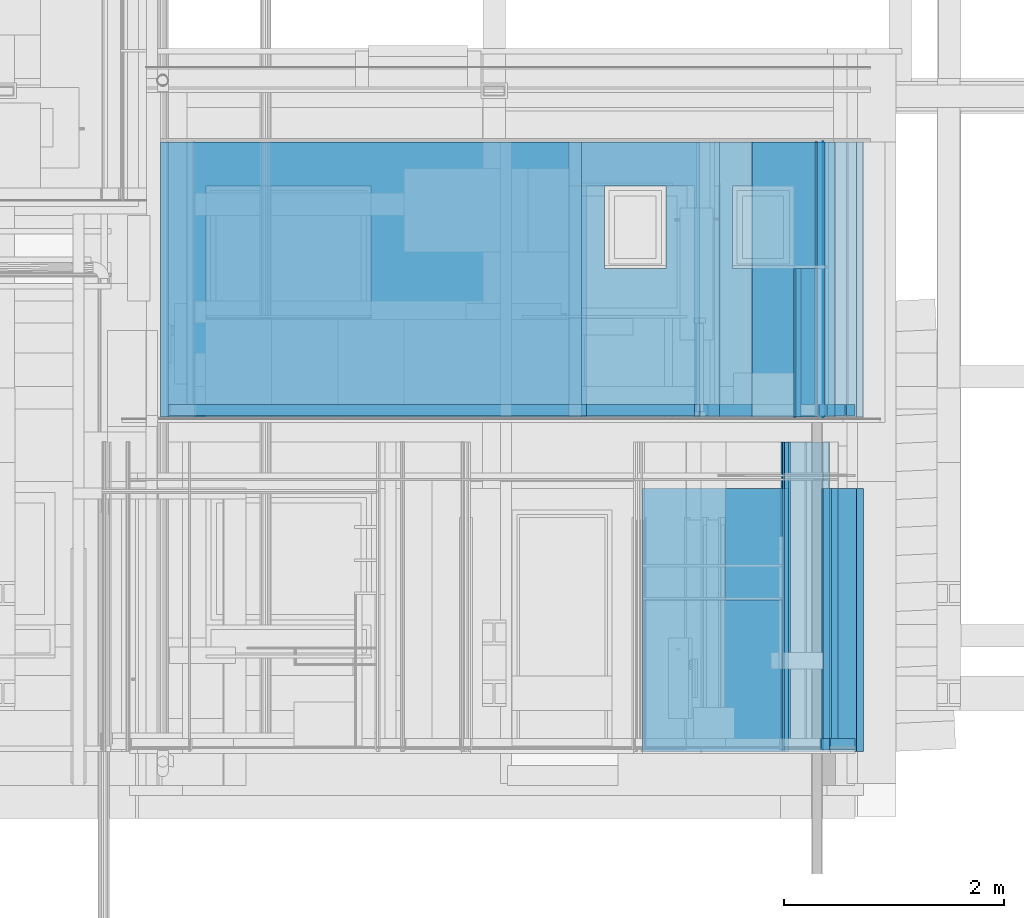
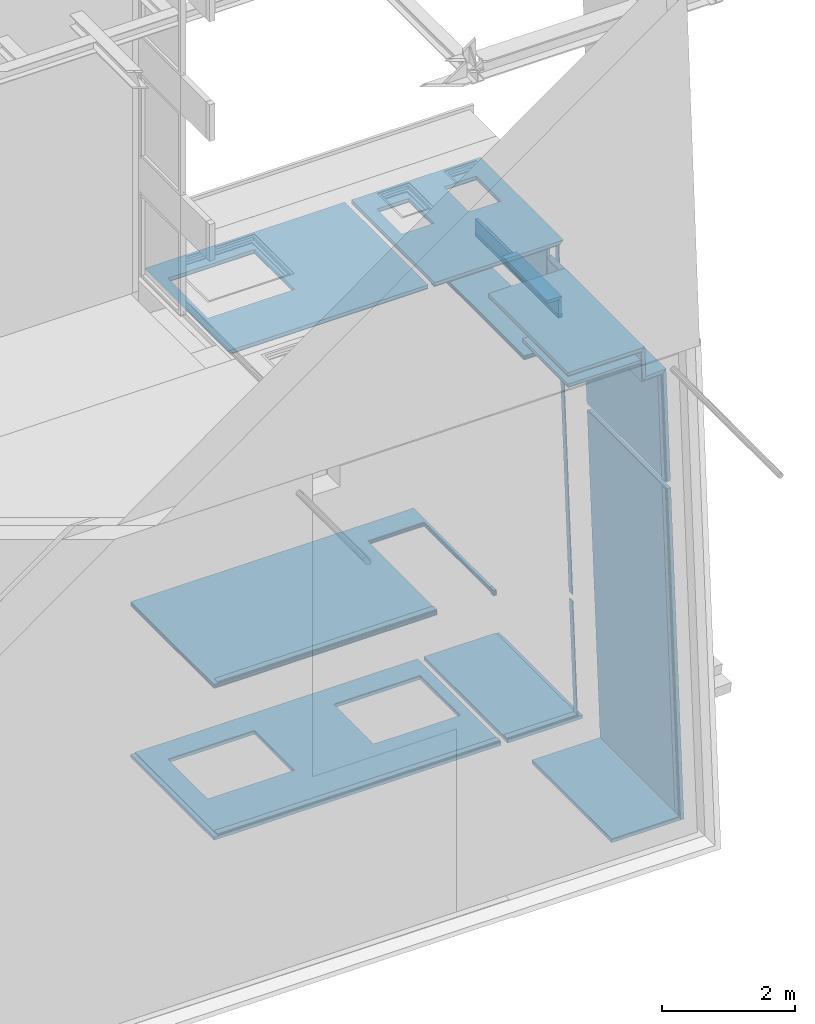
# One storey, part 129 of 583: 48 building element parts, 6 openings, 21 elements without a shape of their own.
"""IFC2X3 building model written with IfcOpenShell, lengths in metres."""

from ifc_helpers import new_model, entity, si_unit, converted_unit, derived_unit, money_unit, direction, frame, frame_2d, origin_with_axes, place, context, subcontext, project, spatial, polyline, rectangle, outline, extrude, material, type_object, element, aggregate, save


model = new_model("IFC2X3")

# Units and contexts
model_context = context("Model", 3, precision=1e-05, world=origin_with_axes(), true_north=direction((0.0, 1.0)))
body_context = subcontext(model_context, "Body", "Model", "MODEL_VIEW", scale=1.0)
ifc_project = project(units=[si_unit("LENGTHUNIT", "METRE"), si_unit("AREAUNIT", "SQUARE_METRE"), si_unit("VOLUMEUNIT", "CUBIC_METRE"), si_unit("ABSORBEDDOSEUNIT", "GRAY"), si_unit("AMOUNTOFSUBSTANCEUNIT", "MOLE"), si_unit("DOSEEQUIVALENTUNIT", "SIEVERT"), si_unit("ELECTRICCAPACITANCEUNIT", "FARAD"), si_unit("ELECTRICCHARGEUNIT", "COULOMB"), si_unit("ELECTRICCONDUCTANCEUNIT", "SIEMENS"), si_unit("ELECTRICCURRENTUNIT", "AMPERE"), si_unit("ELECTRICRESISTANCEUNIT", "OHM"), si_unit("ELECTRICVOLTAGEUNIT", "VOLT"), si_unit("ENERGYUNIT", "JOULE"), si_unit("FORCEUNIT", "NEWTON"), si_unit("FREQUENCYUNIT", "HERTZ"), si_unit("ILLUMINANCEUNIT", "LUX"), si_unit("INDUCTANCEUNIT", "HENRY"), si_unit("LUMINOUSFLUXUNIT", "LUMEN"), si_unit("LUMINOUSINTENSITYUNIT", "CANDELA"), si_unit("MAGNETICFLUXDENSITYUNIT", "TESLA"), si_unit("MAGNETICFLUXUNIT", "WEBER"), si_unit("MASSUNIT", "GRAM"), converted_unit("PLANEANGLEUNIT", "degree", entity("IfcReal", 0.0174532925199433), si_unit("PLANEANGLEUNIT", "RADIAN"), dimensions=[0, 0, 0, 0, 0, 0, 0]), si_unit("POWERUNIT", "WATT"), si_unit("PRESSUREUNIT", "PASCAL"), si_unit("RADIOACTIVITYUNIT", "BECQUEREL"), si_unit("SOLIDANGLEUNIT", "STERADIAN"), si_unit("THERMODYNAMICTEMPERATUREUNIT", "KELVIN"), si_unit("TIMEUNIT", "SECOND"), derived_unit("ACCELERATIONUNIT", [(si_unit("LENGTHUNIT", "METRE"), 1), (si_unit("TIMEUNIT", "SECOND"), -2)]), derived_unit("ANGULARVELOCITYUNIT", [(converted_unit("PLANEANGLEUNIT", "degree", entity("IfcReal", 0.0174532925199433), si_unit("PLANEANGLEUNIT", "RADIAN"), dimensions=[0, 0, 0, 0, 0, 0, 0]), 1), (si_unit("TIMEUNIT", "SECOND"), -1)]), derived_unit("CURVATUREUNIT", [(converted_unit("PLANEANGLEUNIT", "degree", entity("IfcReal", 0.0174532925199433), si_unit("PLANEANGLEUNIT", "RADIAN"), dimensions=[0, 0, 0, 0, 0, 0, 0]), 1), (si_unit("LENGTHUNIT", "METRE"), -1)]), derived_unit("DYNAMICVISCOSITYUNIT", [(si_unit("PRESSUREUNIT", "PASCAL"), 1), (si_unit("TIMEUNIT", "SECOND"), 1)]), derived_unit("HEATFLUXDENSITYUNIT", [(si_unit("POWERUNIT", "WATT"), 1), (si_unit("LENGTHUNIT", "METRE"), -2)]), derived_unit("HEATINGVALUEUNIT", [(si_unit("ENERGYUNIT", "JOULE"), 1), (si_unit("MASSUNIT", "GRAM"), -1)]), derived_unit("INTEGERCOUNTRATEUNIT", [(si_unit("TIMEUNIT", "SECOND"), -1)]), derived_unit("IONCONCENTRATIONUNIT", [(si_unit("MASSUNIT", "GRAM"), 1), (si_unit("VOLUMEUNIT", "CUBIC_METRE"), -1)]), derived_unit("ISOTHERMALMOISTURECAPACITYUNIT", [(si_unit("VOLUMEUNIT", "CUBIC_METRE"), 1), (si_unit("MASSUNIT", "GRAM"), -1)]), derived_unit("KINEMATICVISCOSITYUNIT", [(si_unit("AREAUNIT", "SQUARE_METRE"), 1), (si_unit("TIMEUNIT", "SECOND"), -1)]), derived_unit("LINEARFORCEUNIT", [(si_unit("FORCEUNIT", "NEWTON"), 1), (si_unit("LENGTHUNIT", "METRE"), -1)]), derived_unit("LINEARMOMENTUNIT", [(si_unit("FORCEUNIT", "NEWTON"), 1), (si_unit("LENGTHUNIT", "METRE"), -1)]), derived_unit("LINEARSTIFFNESSUNIT", [(si_unit("FORCEUNIT", "NEWTON"), 1), (si_unit("LENGTHUNIT", "METRE"), -1)]), derived_unit("LINEARVELOCITYUNIT", [(si_unit("LENGTHUNIT", "METRE"), 1), (si_unit("TIMEUNIT", "SECOND"), -1)]), derived_unit("LUMINOUSINTENSITYDISTRIBUTIONUNIT", [(si_unit("LUMINOUSINTENSITYUNIT", "CANDELA"), 1), (si_unit("LUMINOUSFLUXUNIT", "LUMEN"), -1)]), derived_unit("MASSDENSITYUNIT", [(si_unit("MASSUNIT", "GRAM"), 1), (si_unit("VOLUMEUNIT", "CUBIC_METRE"), -1)]), derived_unit("MASSFLOWRATEUNIT", [(si_unit("MASSUNIT", "GRAM"), 1), (si_unit("TIMEUNIT", "SECOND"), -1)]), derived_unit("MASSPERLENGTHUNIT", [(si_unit("MASSUNIT", "GRAM"), 1), (si_unit("LENGTHUNIT", "METRE"), -1)]), derived_unit("MODULUSOFELASTICITYUNIT", [(si_unit("FORCEUNIT", "NEWTON"), 1), (si_unit("AREAUNIT", "SQUARE_METRE"), -1)]), derived_unit("MODULUSOFLINEARSUBGRADEREACTIONUNIT", [(si_unit("FORCEUNIT", "NEWTON"), 1), (si_unit("LENGTHUNIT", "METRE"), -2)]), derived_unit("MODULUSOFROTATIONALSUBGRADEREACTIONUNIT", [(si_unit("FORCEUNIT", "NEWTON"), 1), (si_unit("LENGTHUNIT", "METRE"), 1)]), derived_unit("MODULUSOFSUBGRADEREACTIONUNIT", [(si_unit("FORCEUNIT", "NEWTON"), 1), (si_unit("VOLUMEUNIT", "CUBIC_METRE"), -1)]), derived_unit("MOISTUREDIFFUSIVITYUNIT", [(si_unit("VOLUMEUNIT", "CUBIC_METRE"), 1), (si_unit("TIMEUNIT", "SECOND"), -1)]), derived_unit("MOLECULARWEIGHTUNIT", [(si_unit("MASSUNIT", "GRAM"), 1), (si_unit("AMOUNTOFSUBSTANCEUNIT", "MOLE"), -1)]), derived_unit("PLANARFORCEUNIT", [(si_unit("FORCEUNIT", "NEWTON"), 1), (si_unit("LENGTHUNIT", "METRE"), -2)]), derived_unit("ROTATIONALFREQUENCYUNIT", [(si_unit("TIMEUNIT", "SECOND"), -1)]), derived_unit("ROTATIONALMASSUNIT", [(si_unit("MASSUNIT", "GRAM"), 1), (si_unit("LENGTHUNIT", "METRE"), 2)]), derived_unit("ROTATIONALSTIFFNESSUNIT", [(si_unit("FORCEUNIT", "NEWTON"), 1), (si_unit("LENGTHUNIT", "METRE"), 1), (converted_unit("PLANEANGLEUNIT", "degree", entity("IfcReal", 0.0174532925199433), si_unit("PLANEANGLEUNIT", "RADIAN"), dimensions=[0, 0, 0, 0, 0, 0, 0]), -1)]), derived_unit("SECTIONAREAINTEGRALUNIT", [(si_unit("LENGTHUNIT", "METRE"), 5)]), derived_unit("SECTIONMODULUSUNIT", [(si_unit("LENGTHUNIT", "METRE"), 3)]), derived_unit("SHEARMODULUSUNIT", [(si_unit("FORCEUNIT", "NEWTON"), 1), (si_unit("AREAUNIT", "SQUARE_METRE"), -1)]), derived_unit("SOUNDPOWERUNIT", [(si_unit("ENERGYUNIT", "JOULE"), 1), (si_unit("TIMEUNIT", "SECOND"), -1)]), derived_unit("SPECIFICHEATCAPACITYUNIT", [(si_unit("FORCEUNIT", "NEWTON"), 1), (si_unit("MASSUNIT", "GRAM"), -1), (si_unit("THERMODYNAMICTEMPERATUREUNIT", "KELVIN"), -1)]), derived_unit("TEMPERATUREGRADIENTUNIT", [(si_unit("THERMODYNAMICTEMPERATUREUNIT", "KELVIN"), 1), (si_unit("LENGTHUNIT", "METRE"), -1)]), derived_unit("THERMALADMITTANCEUNIT", [(si_unit("POWERUNIT", "WATT"), 1), (si_unit("AREAUNIT", "SQUARE_METRE"), -1), (si_unit("THERMODYNAMICTEMPERATUREUNIT", "KELVIN"), -1)]), derived_unit("THERMALCONDUCTANCEUNIT", [(si_unit("POWERUNIT", "WATT"), 1), (si_unit("LENGTHUNIT", "METRE"), -1), (si_unit("THERMODYNAMICTEMPERATUREUNIT", "KELVIN"), -1)]), derived_unit("THERMALEXPANSIONCOEFFICIENTUNIT", [(si_unit("THERMODYNAMICTEMPERATUREUNIT", "KELVIN"), -1)]), derived_unit("THERMALRESISTANCEUNIT", [(si_unit("AREAUNIT", "SQUARE_METRE"), 1), (si_unit("POWERUNIT", "WATT"), -1)]), derived_unit("THERMALTRANSMITTANCEUNIT", [(si_unit("POWERUNIT", "WATT"), 1), (si_unit("AREAUNIT", "SQUARE_METRE"), -1), (si_unit("THERMODYNAMICTEMPERATUREUNIT", "KELVIN"), -1)]), derived_unit("TORQUEUNIT", [(si_unit("FORCEUNIT", "NEWTON"), 1), (si_unit("LENGTHUNIT", "METRE"), 1)]), derived_unit("VAPORPERMEABILITYUNIT", [(si_unit("MASSUNIT", "GRAM"), 1), (si_unit("TIMEUNIT", "SECOND"), -1)]), derived_unit("VOLUMETRICFLOWRATEUNIT", [(si_unit("VOLUMEUNIT", "CUBIC_METRE"), 1), (si_unit("TIMEUNIT", "SECOND"), -1)]), derived_unit("WARPINGCONSTANTUNIT", [(si_unit("LENGTHUNIT", "METRE"), 6)]), derived_unit("WARPINGMOMENTUNIT", [(si_unit("FORCEUNIT", "NEWTON"), 1), (si_unit("LENGTHUNIT", "METRE"), 2)]), money_unit("GBP")], contexts=[model_context])

# Site, building, storey
site_placement = place(None, origin_with_axes())
site = spatial("IfcSite", under=ifc_project, at=site_placement, Name="Site", CompositionType="ELEMENT")
building_placement = place(site_placement, origin_with_axes())
building = spatial("IfcBuilding", under=site, at=building_placement, Name="Building01", CompositionType="ELEMENT")
storey_placement = place(building_placement, frame((0.0, 0.0, 20.78), z_axis=(0.0, 0.0, 1.0), x_axis=(1.0, 0.0, 0.0)))
storey = spatial("IfcBuildingStorey", under=building, at=storey_placement, Name="RL", CompositionType="ELEMENT", Elevation=20.78)

# Wall, building element parts
wall_type_1 = type_object("IfcWallType", Name="SHE_A-Walls_Type06c_ExternalWallInsulation_60mm", PredefinedType="NOTDEFINED")
wall_1_placement = place(storey_placement, frame((21.255083, 0.148, -20.499103), z_axis=(0.0, 1.0, 0.0), x_axis=(-1.0, 0.0, 0.0)))
wall_1 = element("IfcWall", 1, at=wall_1_placement, inside=storey, type_object=wall_type_1, Name="6C", ObjectType="SHE_A-Walls_Type06c_ExternalWallInsulation_60mm")
ifc_material_1 = material(Name="A_BSUK_Insulation")
placement_1 = place(wall_1_placement, origin_with_axes())
building_element_part_1 = element("IfcBuildingElementPart", 2, at=placement_1, material=ifc_material_1, Name="1", context=body_context, shape_type="SweptSolid", body=[
    extrude(outline(polyline([(1.19292, 0.06), (0.002226, 0.06), (0.0, 0.0), (1.190701, 0.0), (1.19292, 0.06)])), origin_with_axes(), (0.0, 0.0, 1.0), 2.387),
])
ifc_material_2 = material(Name="A_BSUK_WallInternal_Finishes_Plasterboard")
building_element_part_2 = element("IfcBuildingElementPart", 3, at=placement_1, material=ifc_material_2, Name="3", context=body_context, shape_type="SweptSolid", body=[
    extrude(outline(polyline([(1.193364, 0.072), (0.00167, 0.072), (0.001188, 0.059), (1.192883, 0.059), (1.193364, 0.072)])), origin_with_axes(), (0.0, 0.0, 1.0), 2.387),
])
aggregate(wall_1, [building_element_part_1, building_element_part_2])

wall_2_placement = place(storey_placement, frame((21.087171, 0.148, -14.354474), z_axis=(0.0, 1.0, 0.0), x_axis=(0.03707243, 0.0, -0.99931258)))
wall_2 = element("IfcWall", 4, at=wall_2_placement, inside=storey, type_object=wall_type_1, Name="6C", ObjectType="SHE_A-Walls_Type06c_ExternalWallInsulation_60mm")
placement_2 = place(wall_2_placement, origin_with_axes())
building_element_part_3 = element("IfcBuildingElementPart", 5, at=placement_2, material=ifc_material_1, Name="1", context=body_context, shape_type="SweptSolid", body=[
    extrude(outline(polyline([(6.14663, 0.06), (0.0, 0.06), (0.0, 0.0), (6.148856, 0.0), (6.14663, 0.06)])), origin_with_axes(), (0.0, 0.0, 1.0), 2.387),
])
ifc_material_3 = material(Name="A_BSUK_Walls_Timber")
building_element_part_4 = element("IfcBuildingElementPart", 6, at=placement_2, material=ifc_material_3, Name="2", context=body_context, shape_type="SweptSolid", body=[
    extrude(outline(polyline([(6.058569, 0.087), (0.0, 0.087), (0.0, 0.072), (6.059125, 0.072), (6.058569, 0.087)])), frame((0.0, 0.0, 0.015), z_axis=(0.0, 0.0, 1.0), x_axis=(1.0, 0.0, 0.0)), (0.0, 0.0, 1.0), 0.1),
])
building_element_part_5 = element("IfcBuildingElementPart", 7, at=placement_2, material=ifc_material_2, Name="3", context=body_context, shape_type="SweptSolid", body=[
    extrude(outline(polyline([(6.074136, 0.072), (0.0, 0.072), (0.0, 0.059), (6.074618, 0.059), (6.074136, 0.072)])), origin_with_axes(), (0.0, 0.0, 1.0), 2.387),
])
aggregate(wall_2, [building_element_part_3, building_element_part_4, building_element_part_5])

wall_3_placement = place(storey_placement, frame((19.307574, 0.148, -11.625735), z_axis=(0.0, 1.0, 0.0), x_axis=(1.0, 0.0, 0.0)))
wall_3 = element("IfcWall", 8, at=wall_3_placement, inside=storey, type_object=wall_type_1, Name="6C", ObjectType="SHE_A-Walls_Type06c_ExternalWallInsulation_60mm")
placement_3 = place(wall_3_placement, origin_with_axes())
building_element_part_6 = element("IfcBuildingElementPart", 9, at=placement_3, material=ifc_material_1, Name="1", context=body_context, shape_type="SweptSolid", body=[
    extrude(outline(polyline([(1.26997, 0.06), (0.0, 0.06), (0.0, 0.0), (1.327893, 0.0), (1.26997, 0.06)])), origin_with_axes(), (0.0, 0.0, 1.0), 2.387),
])
building_element_part_7 = element("IfcBuildingElementPart", 10, at=placement_3, material=ifc_material_2, Name="3", context=body_context, shape_type="SweptSolid", body=[
    extrude(outline(polyline([(1.258385, 0.072), (0.0, 0.072), (0.0, 0.059), (1.270935, 0.059), (1.258385, 0.072)])), origin_with_axes(), (0.0, 0.0, 1.0), 2.387),
])
aggregate(wall_3, [building_element_part_6, building_element_part_7])

wall_4_placement = place(storey_placement, frame((20.635466, 0.148, -11.625735), z_axis=(0.0, 1.0, 0.0), x_axis=(0.03521735, 0.0, -0.99937968)))
wall_4 = element("IfcWall", 11, at=wall_4_placement, inside=storey, type_object=wall_type_1, Name="6C", ObjectType="SHE_A-Walls_Type06c_ExternalWallInsulation_60mm")
placement_4 = place(wall_4_placement, origin_with_axes())
building_element_part_8 = element("IfcBuildingElementPart", 12, at=placement_4, material=ifc_material_1, Name="1", context=body_context, shape_type="SweptSolid", body=[
    extrude(outline(polyline([(0.60338, 0.06), (0.057923, 0.06), (0.0, 0.0), (0.542719, 0.0), (0.60338, 0.06)])), origin_with_axes(), (0.0, 0.0, 1.0), 2.812),
])
building_element_part_9 = element("IfcBuildingElementPart", 13, at=placement_4, material=ifc_material_2, Name="3", context=body_context, shape_type="SweptSolid", body=[
    extrude(outline(polyline([(0.615512, 0.072), (0.069507, 0.072), (0.056958, 0.059), (0.602369, 0.059), (0.615512, 0.072)])), origin_with_axes(), (0.0, 0.0, 1.0), 2.812),
])
aggregate(wall_4, [building_element_part_8, building_element_part_9])

wall_5_placement = place(storey_placement, frame((20.65458, 0.148, -12.168117), z_axis=(0.0, 1.0, 0.0), x_axis=(0.99893377, 0.0, 0.04616624)))
wall_5 = element("IfcWall", 14, at=wall_5_placement, inside=storey, type_object=wall_type_1, Name="6C", ObjectType="SHE_A-Walls_Type06c_ExternalWallInsulation_60mm")
placement_5 = place(wall_5_placement, origin_with_axes())
building_element_part_10 = element("IfcBuildingElementPart", 15, at=placement_5, material=ifc_material_1, Name="1", context=body_context, shape_type="SweptSolid", body=[
    extrude(outline(polyline([(0.290707, 0.06), (-0.060661, 0.06), (0.0, 0.0), (0.351255, 0.0), (0.290707, 0.06)])), origin_with_axes(), (0.0, 0.0, 1.0), 2.812),
])
building_element_part_11 = element("IfcBuildingElementPart", 16, at=placement_5, material=ifc_material_2, Name="3", context=body_context, shape_type="SweptSolid", body=[
    extrude(outline(polyline([(0.278597, 0.072), (-0.072793, 0.072), (-0.05965, 0.059), (0.291716, 0.059), (0.278597, 0.072)])), origin_with_axes(), (0.0, 0.0, 1.0), 2.812),
])
aggregate(wall_5, [building_element_part_10, building_element_part_11])

wall_6_placement = place(storey_placement, frame((21.00546, 0.148, -12.151901), z_axis=(0.0, 1.0, 0.0), x_axis=(0.03707243, 0.0, -0.99931258)))
wall_6 = element("IfcWall", 17, at=wall_6_placement, inside=storey, type_object=wall_type_1, Name="6C", ObjectType="SHE_A-Walls_Type06c_ExternalWallInsulation_60mm")
placement_6 = place(wall_6_placement, origin_with_axes())
building_element_part_12 = element("IfcBuildingElementPart", 18, at=placement_6, material=ifc_material_1, Name="1", context=body_context, shape_type="SweptSolid", body=[
    extrude(outline(polyline([(0.060549, 0.06), (0.0, 0.0), (2.072827, 0.0), (2.072827, 0.06), (0.060549, 0.06)])), origin_with_axes(), (0.0, 0.0, 1.0), 2.387),
])
building_element_part_13 = element("IfcBuildingElementPart", 19, at=placement_6, material=ifc_material_3, Name="2", context=body_context, shape_type="SweptSolid", body=[
    extrude(outline(polyline([(0.087795, 0.087), (0.072658, 0.072), (2.072827, 0.072), (2.072827, 0.087), (0.087795, 0.087)])), frame((0.0, 0.0, 0.015), z_axis=(0.0, 0.0, 1.0), x_axis=(1.0, 0.0, 0.0)), (0.0, 0.0, 1.0), 0.1),
])
building_element_part_14 = element("IfcBuildingElementPart", 20, at=placement_6, material=ifc_material_2, Name="3", context=body_context, shape_type="SweptSolid", body=[
    extrude(outline(polyline([(0.072658, 0.072), (0.059539, 0.059), (2.072827, 0.059), (2.072827, 0.072), (0.072658, 0.072)])), origin_with_axes(), (0.0, 0.0, 1.0), 2.387),
])
aggregate(wall_6, [building_element_part_12, building_element_part_13, building_element_part_14])

wall_type_2 = type_object("IfcWallType", Name="SHE_A-Walls_Type05c_PreWallShell_65mm", PredefinedType="NOTDEFINED")
wall_7_placement = place(storey_placement, frame((19.308916, 0.148, -11.838735), z_axis=(0.0, 1.0, 0.0), x_axis=(1.0, 0.0, 0.0)))
wall_7 = element("IfcWall", 21, at=wall_7_placement, inside=storey, type_object=wall_type_2, Name="5C", ObjectType="SHE_A-Walls_Type05c_PreWallShell_65mm")
ifc_material_4 = material(Name="A_BSUK_OpeningsClearance")
placement_7 = place(wall_7_placement, origin_with_axes())
building_element_part_15 = element("IfcBuildingElementPart", 22, at=placement_7, material=ifc_material_4, Name="1", context=body_context, shape_type="SweptSolid", body=[
    extrude(rectangle(XDim=1.265504, YDim=0.05, at=frame_2d((0.632752, 0.025), x_axis=(1.0, 0.0))), origin_with_axes(), (0.0, 0.0, 1.0), 1.375),
])
building_element_part_16 = element("IfcBuildingElementPart", 23, at=placement_7, material=ifc_material_3, Name="2", context=body_context, shape_type="SweptSolid", body=[
    extrude(rectangle(XDim=1.265504, YDim=0.015, at=frame_2d((0.632752, 0.0575), x_axis=(1.0, 0.0))), origin_with_axes(), (0.0, 0.0, 1.0), 1.375),
])
aggregate(wall_7, [building_element_part_15, building_element_part_16])

wall_8_placement = place(storey_placement, frame((20.89411, 3.185, -12.966201), z_axis=(0.0, 1.0, 0.0), x_axis=(1.0, 0.0, 0.0)))
wall_8 = element("IfcWall", 24, at=wall_8_placement, inside=storey, type_object=wall_type_2, Name="5C", ObjectType="SHE_A-Walls_Type05c_PreWallShell_65mm")
placement_8 = place(wall_8_placement, origin_with_axes())
building_element_part_17 = element("IfcBuildingElementPart", 25, at=placement_8, material=ifc_material_4, Name="1", context=body_context, shape_type="SweptSolid", body=[
    extrude(outline(polyline([(0.071377, 0.05), (0.0, 0.05), (0.0, 0.0), (0.069522, 0.0), (0.071377, 0.05)])), origin_with_axes(), (0.0, 0.0, 1.0), 2.5),
])
building_element_part_18 = element("IfcBuildingElementPart", 26, at=placement_8, material=ifc_material_3, Name="2", context=body_context, shape_type="SweptSolid", body=[
    extrude(outline(polyline([(0.071933, 0.065), (0.0, 0.065), (0.0, 0.05), (0.071377, 0.05), (0.071933, 0.065)])), origin_with_axes(), (0.0, 0.0, 1.0), 2.5),
])
aggregate(wall_8, [building_element_part_17, building_element_part_18])

wall_9_placement = place(storey_placement, frame((20.94411, 3.185, -12.720583), z_axis=(0.0, 1.0, 0.0), x_axis=(0.0, 0.0, -1.0)))
wall_9 = element("IfcWall", 27, at=wall_9_placement, inside=storey, type_object=wall_type_2, Name="5C", ObjectType="SHE_A-Walls_Type05c_PreWallShell_65mm")
placement_9 = place(wall_9_placement, origin_with_axes())
building_element_part_19 = element("IfcBuildingElementPart", 28, at=placement_9, material=ifc_material_4, Name="1", context=body_context, shape_type="SweptSolid", body=[
    extrude(rectangle(XDim=0.245618, YDim=0.05, at=frame_2d((0.122809, 0.025), x_axis=(-1.0, 0.0))), origin_with_axes(), (0.0, 0.0, 1.0), 2.5),
])
building_element_part_20 = element("IfcBuildingElementPart", 29, at=placement_9, material=ifc_material_3, Name="2", context=body_context, shape_type="SweptSolid", body=[
    extrude(rectangle(XDim=0.325618, YDim=0.015, at=frame_2d((0.147809, 0.0575), x_axis=(-1.0, 0.0))), origin_with_axes(), (0.0, 0.0, 1.0), 2.5),
])
aggregate(wall_9, [building_element_part_19, building_element_part_20])

# Wall, building element part
wall_10_placement = place(storey_placement, frame((20.948792, 3.185, -12.770583), z_axis=(0.0, 1.0, 0.0), x_axis=(-1.0, 0.0, 0.0)))
wall_10 = element("IfcWall", 30, at=wall_10_placement, inside=storey, type_object=wall_type_2, Name="5C", ObjectType="SHE_A-Walls_Type05c_PreWallShell_65mm")
building_element_part_21_placement = place(wall_10_placement, origin_with_axes())
building_element_part_21 = element("IfcBuildingElementPart", 31, at=building_element_part_21_placement, material=ifc_material_4, Name="1", context=body_context, shape_type="SweptSolid", body=[
    extrude(outline(polyline([(0.004682, 0.05), (0.001855, 0.05), (0.0, 0.0), (0.004682, 0.0), (0.004682, 0.05)])), origin_with_axes(), (0.0, 0.0, 1.0), 2.5),
])
aggregate(wall_10, [building_element_part_21])

# Wall, building element parts
wall_11_placement = place(storey_placement, frame((20.748903, 3.185, -11.697735), z_axis=(0.0, 1.0, 0.0), x_axis=(0.0, 0.0, -1.0)))
wall_11 = element("IfcWall", 32, at=wall_11_placement, inside=storey, type_object=wall_type_2, Name="5C", ObjectType="SHE_A-Walls_Type05c_PreWallShell_65mm")
placement_10 = place(wall_11_placement, origin_with_axes())
building_element_part_22 = element("IfcBuildingElementPart", 33, at=placement_10, material=ifc_material_4, Name="1", context=body_context, shape_type="SweptSolid", body=[
    extrude(rectangle(XDim=0.942848, YDim=0.05, at=frame_2d((0.471424, 0.025), x_axis=(-1.0, 0.0))), origin_with_axes(), (0.0, 0.0, 1.0), 1.35),
])
building_element_part_23 = element("IfcBuildingElementPart", 34, at=placement_10, material=ifc_material_3, Name="2", context=body_context, shape_type="SweptSolid", body=[
    extrude(rectangle(XDim=0.992848, YDim=0.015, at=frame_2d((0.496424, 0.0575), x_axis=(-1.0, 0.0))), origin_with_axes(), (0.0, 0.0, 1.0), 1.35),
])
aggregate(wall_11, [building_element_part_22, building_element_part_23])

# Wall, opening, building element parts
wall_type_3 = type_object("IfcWallType", Name="SHE_A-Walls_Type05b_Partition_80mm", PredefinedType="NOTDEFINED")
wall_12_placement = place(storey_placement, frame((14.93, 3.185, -17.669586), z_axis=(0.0, 1.0, 0.0), x_axis=(1.0, 0.0, 0.0)))
wall_12 = element("IfcWall", 35, at=wall_12_placement, inside=storey, type_object=wall_type_3, Name="5B", ObjectType="SHE_A-Walls_Type05b_Partition_80mm")
opening_1_placement = place(wall_12_placement, frame((3.868347, 0.093, 0.0), z_axis=(0.0, 0.0, 1.0), x_axis=(1.0, 0.0, 0.0)))
element("IfcOpeningElement", 36, at=opening_1_placement, cuts=wall_12, Name="Opening", ObjectType="Opening", context=body_context, shape_type="SweptSolid", body=[
    extrude(rectangle(XDim=0.984, YDim=2.1, at=frame_2d((-0.492, 1.05), x_axis=(1.0, 0.0))), frame((0.0, -6.051545, 0.0), z_axis=(0.0, 1.0, 0.0), x_axis=(-1.0, 0.0, 0.0)), (0.0, 0.0, 1.0), 12.10309),
])
placement_11 = place(wall_12_placement, origin_with_axes())
building_element_part_24 = element("IfcBuildingElementPart", 37, at=placement_11, material=ifc_material_1, Name="1", context=body_context, shape_type="SweptSolid", body=[
    extrude(outline(polyline([(4.899674, 0.025), (0.0, 0.025), (0.0, 0.0), (4.899033, 0.0), (4.899674, 0.025)])), origin_with_axes(), (0.0, 0.0, 1.0), 2.5),
])
building_element_part_25 = element("IfcBuildingElementPart", 38, at=placement_11, material=ifc_material_3, Name="2", context=body_context, shape_type="SweptSolid", body=[
    extrude(outline(polyline([(4.900776, 0.068), (0.072, 0.068), (0.072, 0.053), (4.900392, 0.053), (4.900776, 0.068)])), frame((0.0, 0.0, 0.015), z_axis=(0.0, 0.0, 1.0), x_axis=(1.0, 0.0, 0.0)), (0.0, 0.0, 1.0), 0.1),
])
building_element_part_26 = element("IfcBuildingElementPart", 39, at=placement_11, material=ifc_material_2, Name="3", context=body_context, shape_type="SweptSolid", body=[
    extrude(outline(polyline([(4.900392, 0.053), (0.0, 0.053), (0.0, 0.038), (4.900007, 0.038), (4.900392, 0.053)])), origin_with_axes(), (0.0, 0.0, 1.0), 2.5),
])
building_element_part_27 = element("IfcBuildingElementPart", 40, at=placement_11, material=ifc_material_2, Name="4", context=body_context, shape_type="SweptSolid", body=[
    extrude(outline(polyline([(4.898725, -0.012), (0.0, -0.012), (0.0, -0.027), (4.898341, -0.027), (4.898725, -0.012)])), origin_with_axes(), (0.0, 0.0, 1.0), 2.5),
])
building_element_part_28 = element("IfcBuildingElementPart", 41, at=placement_11, material=ifc_material_3, Name="5", context=body_context, shape_type="SweptSolid", body=[
    extrude(outline(polyline([(4.898341, -0.027), (0.072, -0.027), (0.072, -0.042), (4.897956, -0.042), (4.898341, -0.027)])), frame((0.0, 0.0, 0.015), z_axis=(0.0, 0.0, 1.0), x_axis=(1.0, 0.0, 0.0)), (0.0, 0.0, 1.0), 0.1),
])
aggregate(wall_12, [building_element_part_24, building_element_part_25, building_element_part_26, building_element_part_27, building_element_part_28])

# Wall, building element parts
wall_13_placement = place(storey_placement, frame((20.698903, 3.185, -12.640583), z_axis=(0.0, 1.0, 0.0), x_axis=(1.0, 0.0, 0.0)))
wall_13 = element("IfcWall", 42, at=wall_13_placement, inside=storey, type_object=wall_type_2, Name="5C", ObjectType="SHE_A-Walls_Type05c_PreWallShell_65mm")
placement_12 = place(wall_13_placement, origin_with_axes())
building_element_part_29 = element("IfcBuildingElementPart", 43, at=placement_12, material=ifc_material_4, Name="1", context=body_context, shape_type="SweptSolid", body=[
    extrude(outline(polyline([(0.254492, 0.05), (0.0, 0.05), (0.0, 0.0), (0.252637, 0.0), (0.254492, 0.05)])), origin_with_axes(), (0.0, 0.0, 1.0), 1.35),
])
building_element_part_30 = element("IfcBuildingElementPart", 44, at=placement_12, material=ifc_material_3, Name="2", context=body_context, shape_type="SweptSolid", body=[
    extrude(outline(polyline([(0.255048, 0.065), (-0.015, 0.065), (-0.015, 0.05), (0.254492, 0.05), (0.255048, 0.065)])), origin_with_axes(), (0.0, 0.0, 1.0), 1.35),
])
aggregate(wall_13, [building_element_part_29, building_element_part_30])

wall_14_placement = place(storey_placement, frame((20.301424, 3.185, -13.53525), z_axis=(0.0, 1.0, 0.0), x_axis=(0.99993953, 0.0, -0.01099744)))
wall_14 = element("IfcWall", 45, at=wall_14_placement, inside=storey, type_object=wall_type_3, Name="5B", ObjectType="SHE_A-Walls_Type05b_Partition_80mm")
placement_13 = place(wall_14_placement, origin_with_axes())
building_element_part_31 = element("IfcBuildingElementPart", 46, at=placement_13, material=ifc_material_1, Name="1", context=body_context, shape_type="SweptSolid", body=[
    extrude(outline(polyline([(0.756913, 0.025), (0.0, 0.025), (0.0, 0.0), (0.75571, 0.0), (0.756913, 0.025)])), origin_with_axes(), (0.0, 0.0, 1.0), 2.5),
])
building_element_part_32 = element("IfcBuildingElementPart", 47, at=placement_13, material=ifc_material_2, Name="3", context=body_context, shape_type="SweptSolid", body=[
    extrude(outline(polyline([(0.75826, 0.053), (0.0, 0.053), (0.0, 0.038), (0.757538, 0.038), (0.75826, 0.053)])), origin_with_axes(), (0.0, 0.0, 1.0), 2.5),
])
building_element_part_33 = element("IfcBuildingElementPart", 48, at=placement_13, material=ifc_material_2, Name="4", context=body_context, shape_type="SweptSolid", body=[
    extrude(outline(polyline([(0.755133, -0.012), (0.0, -0.012), (0.0, -0.027), (0.754411, -0.027), (0.755133, -0.012)])), origin_with_axes(), (0.0, 0.0, 1.0), 2.5),
])
aggregate(wall_14, [building_element_part_31, building_element_part_32, building_element_part_33])

wall_15_placement = place(storey_placement, frame((21.315124, 3.185, -20.499103), z_axis=(0.0, 1.0, 0.0), x_axis=(-1.0, 0.0, 0.0)))
wall_15 = element("IfcWall", 49, at=wall_15_placement, inside=storey, type_object=wall_type_1, Name="6C", ObjectType="SHE_A-Walls_Type06c_ExternalWallInsulation_60mm")
placement_14 = place(wall_15_placement, origin_with_axes())
building_element_part_34 = element("IfcBuildingElementPart", 50, at=placement_14, material=ifc_material_1, Name="1", context=body_context, shape_type="SweptSolid", body=[
    extrude(outline(polyline([(1.307057, 0.06), (0.002226, 0.06), (0.0, 0.0), (1.305519, 0.0), (1.307057, 0.06)])), origin_with_axes(), (0.0, 0.0, 1.0), 2.5),
])
building_element_part_35 = element("IfcBuildingElementPart", 51, at=placement_14, material=ifc_material_3, Name="2", context=body_context, shape_type="SweptSolid", body=[
    extrude(outline(polyline([(1.307749, 0.087), (0.075277, 0.087), (0.074721, 0.072), (1.307365, 0.072), (1.307749, 0.087)])), frame((0.0, 0.0, 0.015), z_axis=(0.0, 0.0, 1.0), x_axis=(1.0, 0.0, 0.0)), (0.0, 0.0, 1.0), 0.1),
])
building_element_part_36 = element("IfcBuildingElementPart", 52, at=placement_14, material=ifc_material_2, Name="3", context=body_context, shape_type="SweptSolid", body=[
    extrude(outline(polyline([(1.307365, 0.072), (0.061712, 0.072), (0.061229, 0.059), (1.307031, 0.059), (1.307365, 0.072)])), origin_with_axes(), (0.0, 0.0, 1.0), 2.5),
])
aggregate(wall_15, [building_element_part_34, building_element_part_35, building_element_part_36])

# Wall, openings, building element parts
wall_16_placement = place(storey_placement, frame((19.90157, 3.185, -20.499223), z_axis=(0.0, 1.0, 0.0), x_axis=(-1.0, 0.0, 0.0)))
wall_16 = element("IfcWall", 53, at=wall_16_placement, inside=storey, type_object=wall_type_1, Name="6C", ObjectType="SHE_A-Walls_Type06c_ExternalWallInsulation_60mm")
opening_2_placement = place(wall_16_placement, frame((0.187322, -0.151698, 0.9), z_axis=(0.0, 0.0, 1.0), x_axis=(1.0, 0.0, 0.0)))
element("IfcOpeningElement", 54, at=opening_2_placement, cuts=wall_16, Name="Opening", ObjectType="Opening", context=body_context, shape_type="SweptSolid", body=[
    extrude(rectangle(XDim=1.2, YDim=1.5, at=frame_2d((-0.75, 0.6), x_axis=(0.0, -1.0))), frame((0.0, -6.125659, 0.0), z_axis=(0.0, 1.0, 0.0), x_axis=(-1.0, 0.0, 0.0)), (0.0, 0.0, 1.0), 12.251319),
])
opening_3_placement = place(wall_16_placement, frame((3.05878, -0.151698, 0.9), z_axis=(0.0, 0.0, 1.0), x_axis=(1.0, 0.0, 0.0)))
element("IfcOpeningElement", 55, at=opening_3_placement, cuts=wall_16, Name="Opening", ObjectType="Opening", context=body_context, shape_type="SweptSolid", body=[
    extrude(rectangle(XDim=1.2, YDim=1.5, at=frame_2d((-0.75, 0.6), x_axis=(0.0, -1.0))), frame((0.0, -6.125659, 0.0), z_axis=(0.0, 1.0, 0.0), x_axis=(-1.0, 0.0, 0.0)), (0.0, 0.0, 1.0), 12.251319),
])
placement_15 = place(wall_16_placement, origin_with_axes())
building_element_part_37 = element("IfcBuildingElementPart", 56, at=placement_15, material=ifc_material_1, Name="1", context=body_context, shape_type="SweptSolid", body=[
    extrude(rectangle(XDim=4.97157, YDim=0.06, at=frame_2d((2.485785, 0.03), x_axis=(-1.0, 0.0))), origin_with_axes(), (0.0, 0.0, 1.0), 2.5),
])
building_element_part_38 = element("IfcBuildingElementPart", 57, at=placement_15, material=ifc_material_3, Name="2", context=body_context, shape_type="SweptSolid", body=[
    extrude(rectangle(XDim=4.89957, YDim=0.015, at=frame_2d((2.449785, 0.0795), x_axis=(-1.0, 0.0))), frame((0.0, 0.0, 0.015), z_axis=(0.0, 0.0, 1.0), x_axis=(1.0, 0.0, 0.0)), (0.0, 0.0, 1.0), 0.1),
])
building_element_part_39 = element("IfcBuildingElementPart", 58, at=placement_15, material=ifc_material_2, Name="3", context=body_context, shape_type="SweptSolid", body=[
    extrude(outline(polyline([(4.89957, 0.072), (0.001843, 0.072), (0.001509, 0.059), (4.89957, 0.059), (4.89957, 0.072)])), origin_with_axes(), (0.0, 0.0, 1.0), 2.5),
])
aggregate(wall_16, [building_element_part_37, building_element_part_38, building_element_part_39])

# Wall, building element part
wall_17_placement = place(storey_placement, frame((21.233862, 3.185, -18.30863), z_axis=(0.0, 1.0, 0.0), x_axis=(0.03707243, 0.0, -0.99931258)))
wall_17 = element("IfcWall", 59, at=wall_17_placement, inside=storey, type_object=wall_type_1, Name="6C", ObjectType="SHE_A-Walls_Type06c_ExternalWallInsulation_60mm")
building_element_part_40_placement = place(wall_17_placement, origin_with_axes())
building_element_part_40 = element("IfcBuildingElementPart", 60, at=building_element_part_40_placement, material=ifc_material_3, Name="2", context=body_context, shape_type="SweptSolid", body=[
    extrude(outline(polyline([(2.101692, 0.087), (0.0, 0.087), (0.0, 0.072), (2.102249, 0.072), (2.101692, 0.087)])), frame((0.0, 0.0, 0.015), z_axis=(0.0, 0.0, 1.0), x_axis=(1.0, 0.0, 0.0)), (0.0, 0.0, 1.0), 0.1),
])
aggregate(wall_17, [building_element_part_40])

wall_18_placement = place(storey_placement, frame((21.06028, 3.185, -13.629602), z_axis=(0.0, 1.0, 0.0), x_axis=(0.03707243, 0.0, -0.99931258)))
wall_18 = element("IfcWall", 61, at=wall_18_placement, inside=storey, type_object=wall_type_1, Name="6C", ObjectType="SHE_A-Walls_Type06c_ExternalWallInsulation_60mm")
building_element_part_41_placement = place(wall_18_placement, origin_with_axes())
building_element_part_41 = element("IfcBuildingElementPart", 62, at=building_element_part_41_placement, material=ifc_material_3, Name="2", context=body_context, shape_type="SweptSolid", body=[
    extrude(rectangle(XDim=4.552211, YDim=0.015, at=frame_2d((2.276105, 0.0795), x_axis=(1.0, 0.0))), frame((0.0, 0.0, 0.015), z_axis=(0.0, 0.0, 1.0), x_axis=(1.0, 0.0, 0.0)), (0.0, 0.0, 1.0), 0.1),
])
aggregate(wall_18, [building_element_part_41])

# Wall, openings, building element parts
wall_19_placement = place(storey_placement, frame((18.752607, 3.185, -11.625735), z_axis=(0.0, 1.0, 0.0), x_axis=(1.0, 0.0, 0.0)))
wall_19 = element("IfcWall", 63, at=wall_19_placement, inside=storey, type_object=wall_type_1, Name="6C", ObjectType="SHE_A-Walls_Type06c_ExternalWallInsulation_60mm")
opening_4_placement = place(wall_19_placement, frame((0.209687, -0.15, 1.35), z_axis=(0.0, 0.0, 1.0), x_axis=(1.0, 0.0, 0.0)))
element("IfcOpeningElement", 64, at=opening_4_placement, cuts=wall_19, Name="Opening", ObjectType="Opening", context=body_context, shape_type="SweptSolid", body=[
    extrude(rectangle(XDim=0.75, YDim=0.56, at=frame_2d((-0.28, 0.375), x_axis=(0.0, -1.0))), frame((0.0, -3.694736, 0.0), z_axis=(0.0, 1.0, 0.0), x_axis=(-1.0, 0.0, 0.0)), (0.0, 0.0, 1.0), 7.389472),
])
opening_5_placement = place(wall_19_placement, frame((1.371296, -0.15, 1.35), z_axis=(0.0, 0.0, 1.0), x_axis=(1.0, 0.0, 0.0)))
element("IfcOpeningElement", 65, at=opening_5_placement, cuts=wall_19, Name="Opening", ObjectType="Opening", context=body_context, shape_type="SweptSolid", body=[
    extrude(rectangle(XDim=0.75, YDim=0.56, at=frame_2d((-0.28, 0.375), x_axis=(0.0, -1.0))), frame((0.0, -3.694736, 0.0), z_axis=(0.0, 1.0, 0.0), x_axis=(-1.0, 0.0, 0.0)), (0.0, 0.0, 1.0), 7.389472),
])
placement_16 = place(wall_19_placement, origin_with_axes())
building_element_part_42 = element("IfcBuildingElementPart", 66, at=placement_16, material=ifc_material_1, Name="1", context=body_context, shape_type="SweptSolid", body=[
    extrude(outline(polyline([(2.175518, 0.06), (0.0, 0.06), (0.0, 0.0), (2.233334, 0.0), (2.175518, 0.06)])), origin_with_axes(), (0.0, 0.0, 1.0), 2.5),
])
building_element_part_43 = element("IfcBuildingElementPart", 67, at=placement_16, material=ifc_material_3, Name="2", context=body_context, shape_type="SweptSolid", body=[
    extrude(outline(polyline([(2.149501, 0.087), (0.0, 0.087), (0.0, 0.072), (2.163955, 0.072), (2.149501, 0.087)])), frame((0.0, 0.0, 0.015), z_axis=(0.0, 0.0, 1.0), x_axis=(1.0, 0.0, 0.0)), (0.0, 0.0, 1.0), 0.1),
])
building_element_part_44 = element("IfcBuildingElementPart", 68, at=placement_16, material=ifc_material_2, Name="3", context=body_context, shape_type="SweptSolid", body=[
    extrude(outline(polyline([(2.163955, 0.072), (0.0, 0.072), (0.0, 0.059), (2.176482, 0.059), (2.163955, 0.072)])), origin_with_axes(), (0.0, 0.0, 1.0), 2.5),
])
aggregate(wall_19, [building_element_part_42, building_element_part_43, building_element_part_44])

# Wall, building element part
wall_20_placement = place(storey_placement, frame((20.985941, 3.185, -11.625735), z_axis=(0.0, 1.0, 0.0), x_axis=(0.03707243, 0.0, -0.99931258)))
wall_20 = element("IfcWall", 69, at=wall_20_placement, inside=storey, type_object=wall_type_1, Name="6C", ObjectType="SHE_A-Walls_Type06c_ExternalWallInsulation_60mm")
building_element_part_45_placement = place(wall_20_placement, origin_with_axes())
building_element_part_45 = element("IfcBuildingElementPart", 70, at=building_element_part_45_placement, material=ifc_material_3, Name="2", context=body_context, shape_type="SweptSolid", body=[
    extrude(outline(polyline([(0.083832, 0.087), (0.069378, 0.072), (1.892968, 0.072), (1.892968, 0.087), (0.083832, 0.087)])), frame((0.0, 0.0, 0.015), z_axis=(0.0, 0.0, 1.0), x_axis=(1.0, 0.0, 0.0)), (0.0, 0.0, 1.0), 0.1),
])
aggregate(wall_20, [building_element_part_45])

# Wall, opening, building element parts
wall_21_placement = place(storey_placement, frame((15.168, 3.185, -11.625735), z_axis=(0.0, 1.0, 0.0), x_axis=(1.0, 0.0, 0.0)))
wall_21 = element("IfcWall", 71, at=wall_21_placement, inside=storey, type_object=wall_type_1, Name="6C", ObjectType="SHE_A-Walls_Type06c_ExternalWallInsulation_60mm")
opening_6_placement = place(wall_21_placement, frame((0.17479, -0.15, 0.9), z_axis=(0.0, 0.0, 1.0), x_axis=(1.0, 0.0, 0.0)))
element("IfcOpeningElement", 72, at=opening_6_placement, cuts=wall_21, Name="Opening", ObjectType="Opening", context=body_context, shape_type="SweptSolid", body=[
    extrude(rectangle(XDim=1.2, YDim=1.5, at=frame_2d((-0.75, 0.6), x_axis=(0.0, -1.0))), frame((0.0, -4.711565, 0.0), z_axis=(0.0, 1.0, 0.0), x_axis=(-1.0, 0.0, 0.0)), (0.0, 0.0, 1.0), 9.423131),
])
placement_17 = place(wall_21_placement, origin_with_axes())
building_element_part_46 = element("IfcBuildingElementPart", 73, at=placement_17, material=ifc_material_1, Name="1", context=body_context, shape_type="SweptSolid", body=[
    extrude(outline(polyline([(3.471607, 0.06), (0.06, 0.06), (0.0, 0.0), (3.471607, 0.0), (3.471607, 0.06)])), origin_with_axes(), (0.0, 0.0, 1.0), 2.5),
])
building_element_part_47 = element("IfcBuildingElementPart", 74, at=placement_17, material=ifc_material_3, Name="2", context=body_context, shape_type="SweptSolid", body=[
    extrude(outline(polyline([(0.087, 0.087), (0.072, 0.072), (3.471607, 0.072), (3.471607, 0.087), (0.087, 0.087)])), frame((0.0, 0.0, 0.015), z_axis=(0.0, 0.0, 1.0), x_axis=(1.0, 0.0, 0.0)), (0.0, 0.0, 1.0), 0.1),
])
building_element_part_48 = element("IfcBuildingElementPart", 75, at=placement_17, material=ifc_material_2, Name="3", context=body_context, shape_type="SweptSolid", body=[
    extrude(outline(polyline([(3.471607, 0.072), (0.072, 0.072), (0.059, 0.059), (3.471607, 0.059), (3.471607, 0.072)])), origin_with_axes(), (0.0, 0.0, 1.0), 2.5),
])
aggregate(wall_21, [building_element_part_46, building_element_part_47, building_element_part_48])

save(model, "model.ifc")
